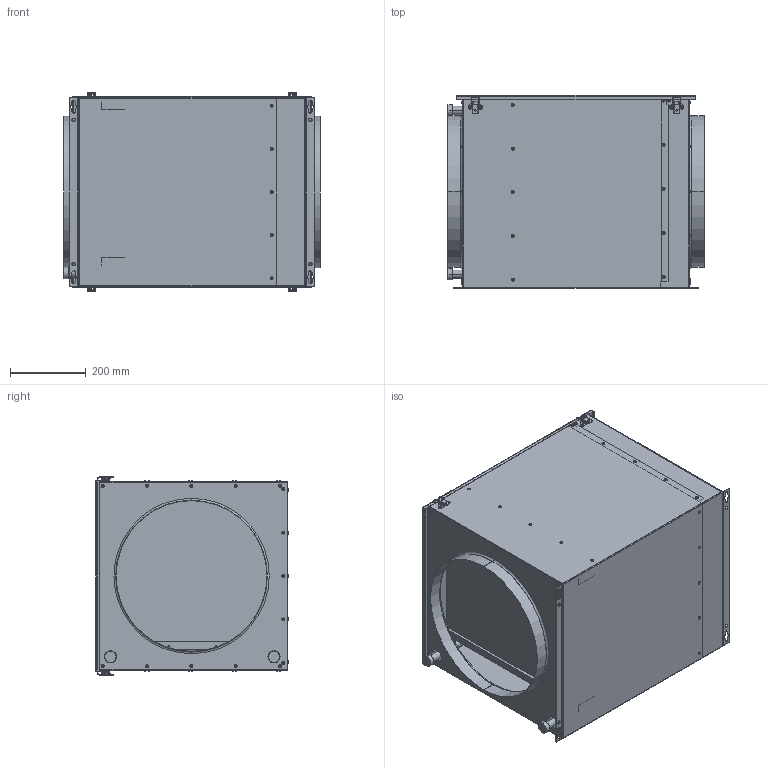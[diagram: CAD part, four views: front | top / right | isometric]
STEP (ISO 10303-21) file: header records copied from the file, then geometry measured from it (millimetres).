
FILE_DESCRIPTION (( 'STEP AP203' ), '1' );
FILE_NAME ('112857-00_FTW400_step.step', '2020-08-26T10:03:00', ( '' ), ( '' ), 'SwSTEP 2.0', 'SolidWorks 2017', '' );
FILE_SCHEMA (( 'CONFIG_CONTROL_DESIGN' ));
Length unit declared in the file: millimetre
Products named in the file (1): 112857-00_FTW400_step
Bounding box: 678 x 509.3 x 527.59 mm (x, y, z)
Surface area: 4950922 mm2 (no closed solid volume)
Topology: 0 solids, 129 shells, 804 faces, 2712 edges, 1914 vertices
Faces by surface type: cylinder 385, plane 209, torus 154, bspline 56
Entity records: 31444 total; most frequent: CARTESIAN_POINT 7208, DIRECTION 5672, ORIENTED_EDGE 4052, EDGE_CURVE 2712, AXIS2_PLACEMENT_3D 2277, VERTEX_POINT 1914, CIRCLE 1528, LINE 1118
